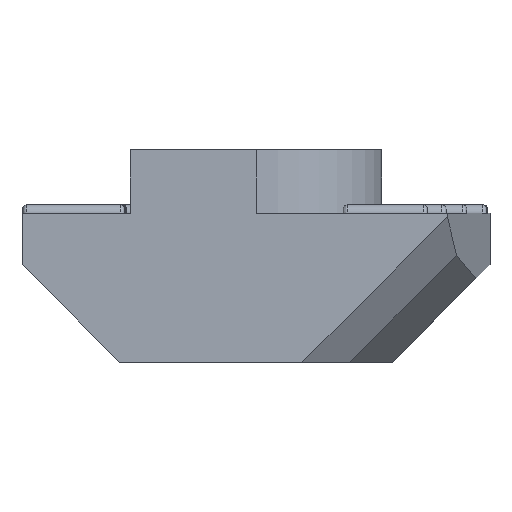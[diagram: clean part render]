
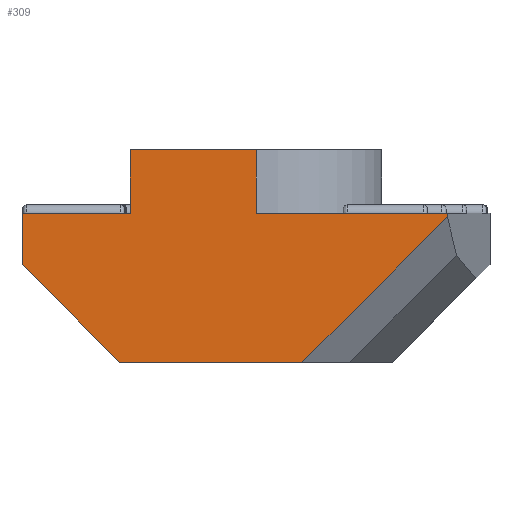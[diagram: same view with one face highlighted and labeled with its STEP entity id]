
A CAD part, front view. The second image highlights one B-rep face of the part: STEP entity #309.
In plain terms, the highlighted planar face has unit normal (0, -1, 0).
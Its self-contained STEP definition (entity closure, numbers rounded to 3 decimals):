
#90=CARTESIAN_POINT('',(-18.711,-8.3,0.0));
#91=VERTEX_POINT('',#90);
#98=CARTESIAN_POINT('',(-21.011,-8.3,2.3));
#99=VERTEX_POINT('',#98);
#100=CARTESIAN_POINT('',(-21.011,-8.3,2.3));
#101=DIRECTION('',(0.707,0.0,-0.707));
#102=VECTOR('',#101,3.253);
#103=LINE('',#100,#102);
#104=EDGE_CURVE('',#99,#91,#103,.T.);
#161=CARTESIAN_POINT('',(-14.432,-8.3,0.0));
#162=VERTEX_POINT('',#161);
#169=CARTESIAN_POINT('',(-14.432,-8.3,0.0));
#170=DIRECTION('',(-1.0,0.0,0.0));
#171=VECTOR('',#170,4.279);
#172=LINE('',#169,#171);
#173=EDGE_CURVE('',#162,#91,#172,.T.);
#227=CARTESIAN_POINT('',(-11.011,-8.3,3.421));
#228=VERTEX_POINT('',#227);
#235=CARTESIAN_POINT('',(-11.011,-8.3,3.421));
#236=DIRECTION('',(-0.707,0.0,-0.707));
#237=VECTOR('',#236,4.838);
#238=LINE('',#235,#237);
#239=EDGE_CURVE('',#228,#162,#238,.T.);
#245=CARTESIAN_POINT('',(-10.011,-8.3,0.0));
#246=DIRECTION('',(0.0,-1.0,0.0));
#247=DIRECTION('',(0.0,0.0,-1.0));
#248=AXIS2_PLACEMENT_3D('',#245,#246,#247);
#249=PLANE('',#248);
#250=ORIENTED_EDGE('',*,*,#239,.F.);
#251=CARTESIAN_POINT('',(-11.011,-8.3,3.5));
#252=VERTEX_POINT('',#251);
#253=CARTESIAN_POINT('',(-11.011,-8.3,3.421));
#254=DIRECTION('',(0.0,0.0,1.0));
#255=VECTOR('',#254,0.079);
#256=LINE('',#253,#255);
#257=EDGE_CURVE('',#228,#252,#256,.T.);
#258=ORIENTED_EDGE('',*,*,#257,.T.);
#259=CARTESIAN_POINT('',(-15.511,-8.3,3.5));
#260=VERTEX_POINT('',#259);
#261=CARTESIAN_POINT('',(-11.011,-8.3,3.5));
#262=DIRECTION('',(-1.0,0.0,0.0));
#263=VECTOR('',#262,4.5);
#264=LINE('',#261,#263);
#265=EDGE_CURVE('',#252,#260,#264,.T.);
#266=ORIENTED_EDGE('',*,*,#265,.T.);
#267=CARTESIAN_POINT('',(-15.511,-8.3,5.));
#268=VERTEX_POINT('',#267);
#269=CARTESIAN_POINT('',(-15.511,-8.3,3.5));
#270=DIRECTION('',(0.0,0.0,1.0));
#271=VECTOR('',#270,1.5);
#272=LINE('',#269,#271);
#273=EDGE_CURVE('',#260,#268,#272,.T.);
#274=ORIENTED_EDGE('',*,*,#273,.T.);
#275=CARTESIAN_POINT('',(-18.461,-8.3,5.));
#276=VERTEX_POINT('',#275);
#277=CARTESIAN_POINT('',(-15.511,-8.3,5.));
#278=DIRECTION('',(-1.0,0.0,0.0));
#279=VECTOR('',#278,2.95);
#280=LINE('',#277,#279);
#281=EDGE_CURVE('',#268,#276,#280,.T.);
#282=ORIENTED_EDGE('',*,*,#281,.T.);
#283=CARTESIAN_POINT('',(-18.461,-8.3,3.5));
#284=VERTEX_POINT('',#283);
#285=CARTESIAN_POINT('',(-18.461,-8.3,3.5));
#286=DIRECTION('',(0.0,0.0,1.0));
#287=VECTOR('',#286,1.5);
#288=LINE('',#285,#287);
#289=EDGE_CURVE('',#284,#276,#288,.T.);
#290=ORIENTED_EDGE('',*,*,#289,.F.);
#291=CARTESIAN_POINT('',(-21.011,-8.3,3.5));
#292=VERTEX_POINT('',#291);
#293=CARTESIAN_POINT('',(-18.461,-8.3,3.5));
#294=DIRECTION('',(-1.0,0.0,0.0));
#295=VECTOR('',#294,2.55);
#296=LINE('',#293,#295);
#297=EDGE_CURVE('',#284,#292,#296,.T.);
#298=ORIENTED_EDGE('',*,*,#297,.T.);
#299=CARTESIAN_POINT('',(-21.011,-8.3,2.3));
#300=DIRECTION('',(0.0,0.0,1.0));
#301=VECTOR('',#300,1.2);
#302=LINE('',#299,#301);
#303=EDGE_CURVE('',#99,#292,#302,.T.);
#304=ORIENTED_EDGE('',*,*,#303,.F.);
#305=ORIENTED_EDGE('',*,*,#104,.T.);
#306=ORIENTED_EDGE('',*,*,#173,.F.);
#307=EDGE_LOOP('',(#250,#258,#266,#274,#282,#290,#298,#304,#305,#306));
#308=FACE_OUTER_BOUND('',#307,.T.);
#309=ADVANCED_FACE('',(#308),#249,.T.);
